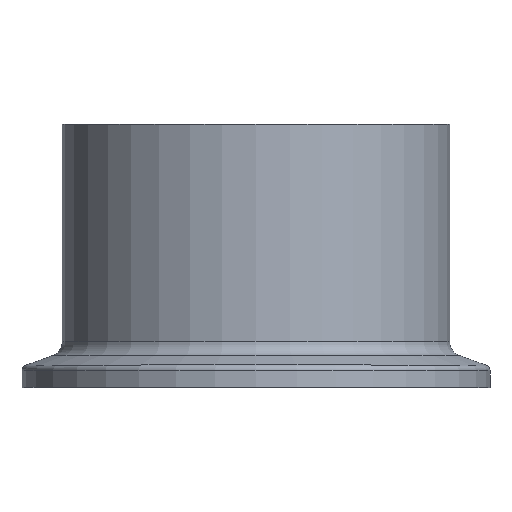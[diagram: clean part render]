
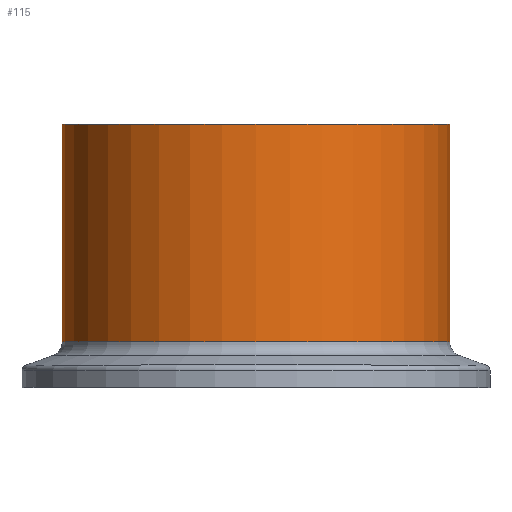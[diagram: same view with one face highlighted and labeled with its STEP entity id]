
A CAD part, top view. The second image highlights one B-rep face of the part: STEP entity #115.
In plain terms, the highlighted cylindrical face has radius 26.5 mm (diameter 53 mm), a full revolution.
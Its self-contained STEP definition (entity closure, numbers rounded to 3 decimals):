
#73=CARTESIAN_POINT('',(26.5,36.,0.0));
#74=VERTEX_POINT('',#73);
#75=CARTESIAN_POINT('',(0.0,36.,0.0));
#76=DIRECTION('',(0.0,-1.0,0.0));
#77=DIRECTION('',(1.0,0.0,0.0));
#78=AXIS2_PLACEMENT_3D('',#75,#76,#77);
#79=CIRCLE('',#78,26.5);
#80=EDGE_CURVE('',#74,#74,#79,.T.);
#96=CARTESIAN_POINT('',(0.0,21.126,0.0));
#97=DIRECTION('',(0.0,-1.0,0.0));
#98=DIRECTION('',(1.0,0.0,0.0));
#99=AXIS2_PLACEMENT_3D('',#96,#97,#98);
#100=CYLINDRICAL_SURFACE('',#99,26.5);
#101=CARTESIAN_POINT('',(26.5,6.252,0.0));
#102=VERTEX_POINT('',#101);
#103=CARTESIAN_POINT('',(0.0,6.252,0.0));
#104=DIRECTION('',(0.0,-1.0,0.0));
#105=DIRECTION('',(1.0,0.0,0.0));
#106=AXIS2_PLACEMENT_3D('',#103,#104,#105);
#107=CIRCLE('',#106,26.5);
#108=EDGE_CURVE('',#102,#102,#107,.T.);
#109=ORIENTED_EDGE('',*,*,#108,.F.);
#110=EDGE_LOOP('',(#109));
#111=FACE_OUTER_BOUND('',#110,.T.);
#112=ORIENTED_EDGE('',*,*,#80,.T.);
#113=EDGE_LOOP('',(#112));
#114=FACE_BOUND('',#113,.T.);
#115=ADVANCED_FACE('',(#111,#114),#100,.T.);
